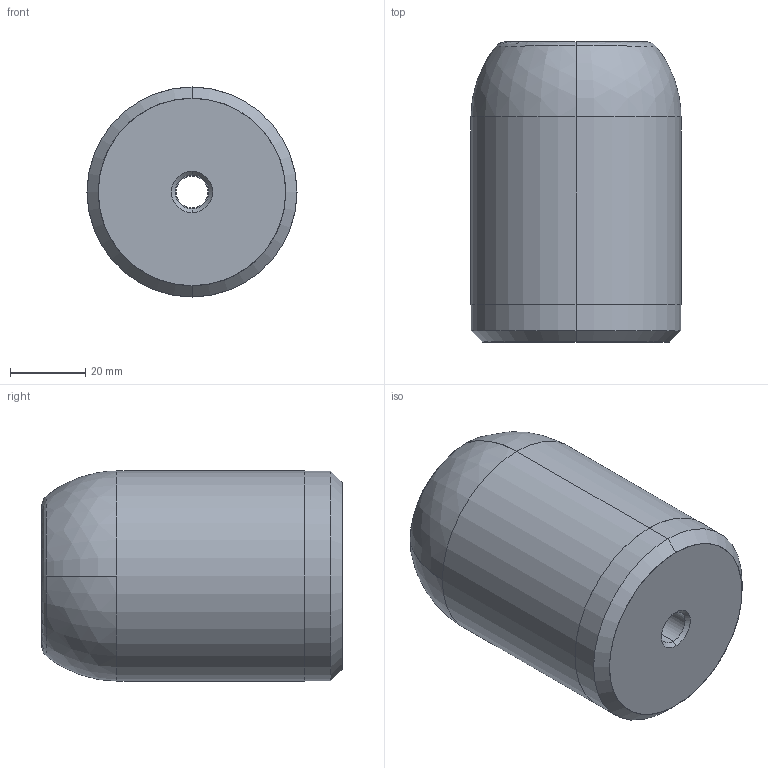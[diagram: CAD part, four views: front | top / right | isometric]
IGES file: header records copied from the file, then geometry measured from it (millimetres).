
Start section: START RECORD GO HERE.
Global section: file name: 700-56-80.igs; native system: DASSAULT SYSTEMES CATIA V5 R20 - www.3ds.com; preprocessor: CATIA Version 5 Release 20 ; author: Utente; organization: NB04-ASUS; date: 20201129.131522; units: millimetre
Bounding box: 56 x 80 x 56 mm (x, y, z)
Surface area: 19558.2 mm2 (no closed solid volume)
Topology: 0 solids, 0 shells, 24 faces, 100 edges, 100 vertices
Faces by surface type: revolution 20, plane 4
